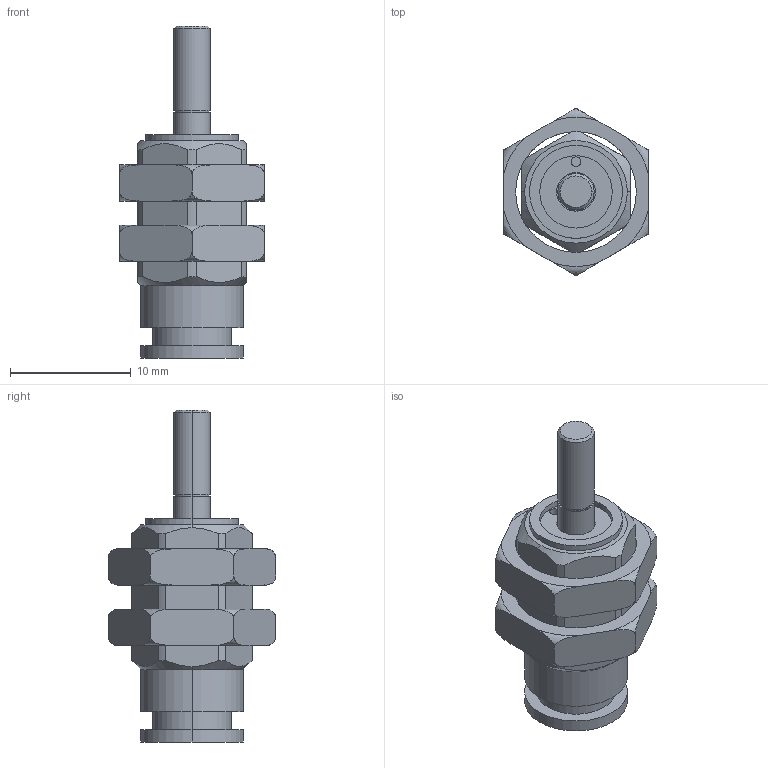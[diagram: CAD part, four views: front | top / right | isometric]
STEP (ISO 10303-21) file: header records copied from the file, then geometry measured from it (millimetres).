
FILE_DESCRIPTION (( 'STEP AP214' ), '1' );
FILE_NAME ('CJPB6-5.step', '2019-06-04T00:50:57', ( '' ), ( '' ), 'SwSTEP 2.0', 'SolidWorks 2019', '' );
FILE_SCHEMA (( 'AUTOMOTIVE_DESIGN' ));
Length unit declared in the file: millimetre
Products named in the file (4): CJPB6-5; CJPB6-5_CJP-Nut_6B; CJPB6-5_CJP-Body_6B-5; CJPB6-5_CJP-Rod_6_5
Assembly tree (4 placements, depth 2):
  CJPB6-5
    CJPB6-5_CJP-Body_6B-5
    CJPB6-5_CJP-Rod_6_5
    CJPB6-5_CJP-Nut_6B  x2
Bounding box: 12 x 13.86 x 27.5 mm (x, y, z)
Volume: 1232 mm3; surface area: 1830.5 mm2
Topology: 4 solids, 4 shells, 104 faces, 254 edges, 168 vertices
Faces by surface type: cylinder 38, plane 36, torus 24, cone 6
Entity records: 2888 total; most frequent: CARTESIAN_POINT 811, DIRECTION 420, ORIENTED_EDGE 388, EDGE_CURVE 194, AXIS2_PLACEMENT_3D 177, VERTEX_POINT 128, EDGE_LOOP 98, CIRCLE 88
